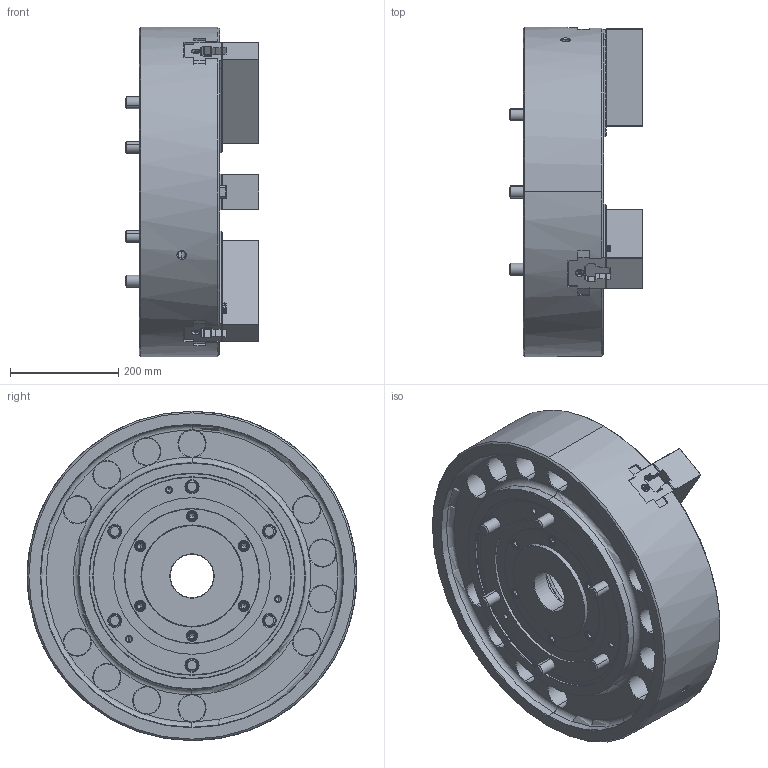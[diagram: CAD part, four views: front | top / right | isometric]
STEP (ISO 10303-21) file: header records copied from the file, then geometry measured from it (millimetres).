
FILE_DESCRIPTION (( 'STEP AP214' ), '1' );
FILE_NAME ('B-24_閉端.STEP', '2025-04-04T04:42:43', ( '' ), ( '' ), 'SwSTEP 2.0', 'SolidWorks 2022', '' );
FILE_SCHEMA (( 'AUTOMOTIVE_DESIGN' ));
Length unit declared in the file: millimetre
Products named in the file (5): P32262; 61P405602; Part16^B-24_61P254134; B-24_閉端; 0030120060
Assembly tree (13 placements, depth 2):
  B-24_閉端
    P32262  x3
    61P405602  x3
    0030120060  x6
    Part16^B-24_61P254134
Bounding box: 248 x 610 x 610 mm (x, y, z)
Volume: 37787232.6 mm3; surface area: 1839825.3 mm2
Topology: 13 solids, 50 shells, 8578 faces, 24263 edges, 15997 vertices
Faces by surface type: plane 5320, cylinder 1653, bspline 995, cone 535, torus 69, sphere 6
Entity records: 251760 total; most frequent: CARTESIAN_POINT 82197, ORIENTED_EDGE 38606, DIRECTION 29960, EDGE_CURVE 19303, VECTOR 13812, LINE 13812, VERTEX_POINT 12754, AXIS2_PLACEMENT_3D 8074
